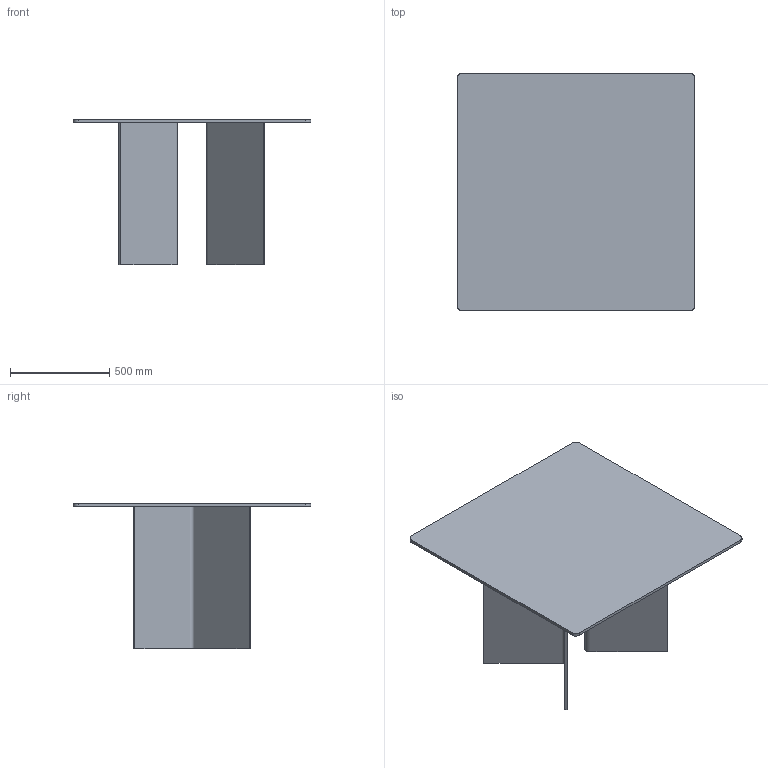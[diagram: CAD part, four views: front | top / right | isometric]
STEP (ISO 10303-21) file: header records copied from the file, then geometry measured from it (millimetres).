
FILE_DESCRIPTION(/* description */ (''),/* implementation_level */ '2;1');
FILE_NAME(/* name */ '216630 - corner 120x120',/* time_stamp */ '2014-07-31T16:09:37+02:00',/* author */ (''),/* organization */ (''),/* preprocessor_version */ 'ST-DEVELOPER v10',/* originating_system */ '',/* authorisation */ '');
FILE_SCHEMA (('CONFIG_CONTROL_DESIGN'));
Length unit declared in the file: millimetre
Products named in the file (1): 1
Bounding box: 1200 x 1200 x 735 mm (x, y, z)
Volume: 36637745.5 mm3; surface area: 5386958.2 mm2
Topology: 3 solids, 3 shells, 24 faces, 54 edges, 36 vertices
Faces by surface type: plane 16, bspline 8
Entity records: 758 total; most frequent: CARTESIAN_POINT 314, ORIENTED_EDGE 108, EDGE_CURVE 54, VERTEX_POINT 36, B_SPLINE_CURVE_WITH_KNOTS 30, ADVANCED_FACE 24, FACE_OUTER_BOUND 24, EDGE_LOOP 24
